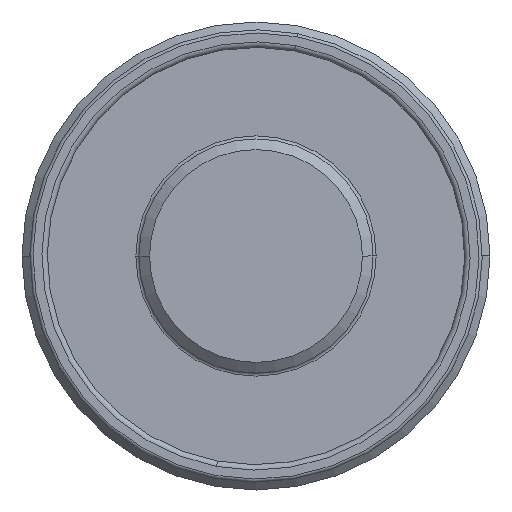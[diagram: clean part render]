
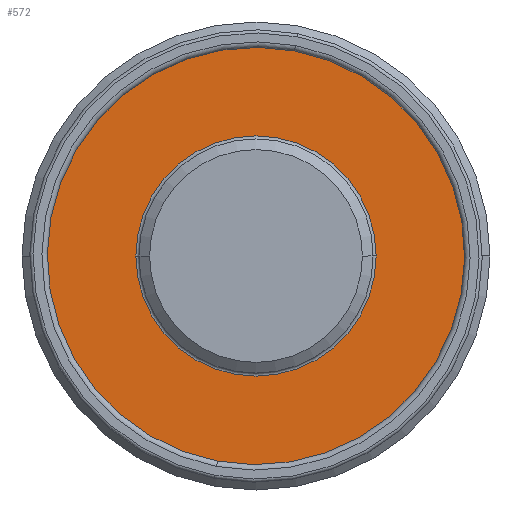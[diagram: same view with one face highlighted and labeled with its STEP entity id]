
A CAD part, front view. The second image highlights one B-rep face of the part: STEP entity #572.
In plain terms, the highlighted planar face has unit normal (0, -1, 0).
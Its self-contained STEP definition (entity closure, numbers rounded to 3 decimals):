
#182=PLANE('',#2391);
#224=FACE_BOUND('',#873,.T.);
#225=FACE_BOUND('',#874,.T.);
#572=ADVANCED_FACE('',(#224,#225),#182,.F.);
#873=EDGE_LOOP('',(#1319,#1320));
#874=EDGE_LOOP('',(#1321,#1322));
#1319=ORIENTED_EDGE('',*,*,#1895,.T.);
#1320=ORIENTED_EDGE('',*,*,#1894,.T.);
#1321=ORIENTED_EDGE('',*,*,#1896,.T.);
#1322=ORIENTED_EDGE('',*,*,#1897,.T.);
#1639=VERTEX_POINT('',#3798);
#1640=VERTEX_POINT('',#3800);
#1641=VERTEX_POINT('',#3806);
#1642=VERTEX_POINT('',#3807);
#1894=EDGE_CURVE('',#1639,#1640,#2112,.T.);
#1895=EDGE_CURVE('',#1640,#1639,#2113,.T.);
#1896=EDGE_CURVE('',#1641,#1642,#2114,.T.);
#1897=EDGE_CURVE('',#1642,#1641,#2115,.T.);
#2112=CIRCLE('',#2385,15.4);
#2113=CIRCLE('',#2387,15.4);
#2114=CIRCLE('',#2389,28.6);
#2115=CIRCLE('',#2390,28.6);
#2385=AXIS2_PLACEMENT_3D('',#3801,#2996,#2997);
#2387=AXIS2_PLACEMENT_3D('',#3803,#3000,#3001);
#2389=AXIS2_PLACEMENT_3D('',#3805,#3004,#3005);
#2390=AXIS2_PLACEMENT_3D('',#3808,#3006,#3007);
#2391=AXIS2_PLACEMENT_3D('',#3809,#3008,#3009);
#2996=DIRECTION('',(0.,1.,0.));
#2997=DIRECTION('',(-1.,0.,0.));
#3000=DIRECTION('',(0.,1.,0.));
#3001=DIRECTION('',(-1.,0.,0.));
#3004=DIRECTION('',(0.,-1.,0.));
#3005=DIRECTION('',(-1.,0.,0.));
#3006=DIRECTION('',(0.,-1.,0.));
#3007=DIRECTION('',(-1.,0.,0.));
#3008=DIRECTION('',(0.,1.,0.));
#3009=DIRECTION('',(-1.,0.,0.));
#3798=CARTESIAN_POINT('',(15.4,26.6,0.));
#3800=CARTESIAN_POINT('',(-15.4,26.6,0.));
#3801=CARTESIAN_POINT('',(0.,26.6,0.));
#3803=CARTESIAN_POINT('',(0.,26.6,0.));
#3805=CARTESIAN_POINT('',(0.,26.6,0.));
#3806=CARTESIAN_POINT('',(-28.6,26.6,0.));
#3807=CARTESIAN_POINT('',(28.6,26.6,0.));
#3808=CARTESIAN_POINT('',(0.,26.6,0.));
#3809=CARTESIAN_POINT('',(28.8,26.6,0.));
